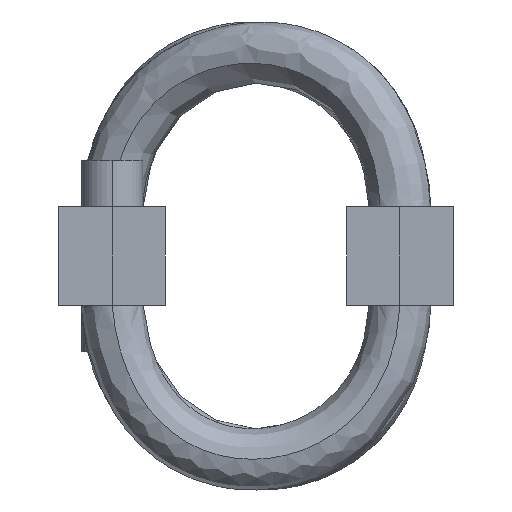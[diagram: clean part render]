
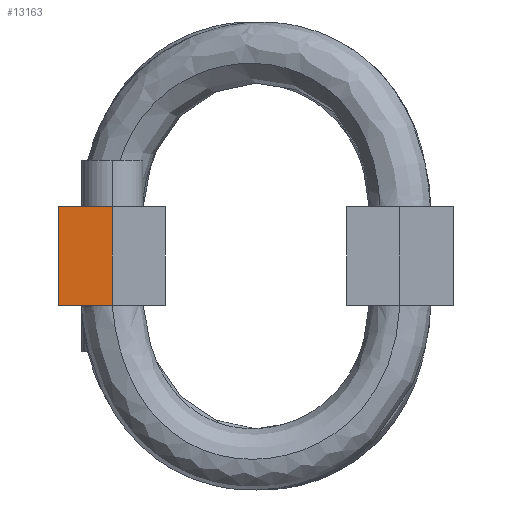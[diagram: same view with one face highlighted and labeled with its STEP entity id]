
A CAD part, left-side view. The second image highlights one B-rep face of the part: STEP entity #13163.
In plain terms, the highlighted planar face has unit normal (-1, 0, 0).
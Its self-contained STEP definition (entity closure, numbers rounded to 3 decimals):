
#1477 = LINE ( 'NONE', #32263, #30634 ) ;
#1619 = DIRECTION ( 'NONE',  ( 0., 0., 1. ) ) ;
#2585 = ORIENTED_EDGE ( 'NONE', *, *, #7484, .F. ) ;
#2605 = CARTESIAN_POINT ( 'NONE',  ( -133.35, 51., 12.7 ) ) ;
#3106 = CARTESIAN_POINT ( 'NONE',  ( -133.35, 51., -12.7 ) ) ;
#4693 = CARTESIAN_POINT ( 'NONE',  ( -133.35, 44.1, 0. ) ) ;
#6073 = AXIS2_PLACEMENT_3D ( 'NONE', #4693, #10390, #30084 ) ;
#7007 = DIRECTION ( 'NONE',  ( 0., -1., 0. ) ) ;
#7064 = DIRECTION ( 'NONE',  ( 0., 1., 0. ) ) ;
#7484 = EDGE_CURVE ( 'NONE', #16012, #17000, #10129, .T. ) ;
#8247 = VECTOR ( 'NONE', #1619, 1000. ) ;
#8587 = CARTESIAN_POINT ( 'NONE',  ( -133.35, 37.2, 12.7 ) ) ;
#9794 = EDGE_CURVE ( 'NONE', #34092, #32902, #22397, .T. ) ;
#10129 = LINE ( 'NONE', #30409, #31730 ) ;
#10390 = DIRECTION ( 'NONE',  ( -1., 0., 0. ) ) ;
#11462 = EDGE_CURVE ( 'NONE', #32902, #16012, #1477, .T. ) ;
#13163 = ADVANCED_FACE ( 'NONE', ( #27725 ), #35245, .T. ) ;
#13780 = ORIENTED_EDGE ( 'NONE', *, *, #9794, .F. ) ;
#15738 = CARTESIAN_POINT ( 'NONE',  ( -133.35, 51., -12.7 ) ) ;
#16012 = VERTEX_POINT ( 'NONE', #8587 ) ;
#16902 = ORIENTED_EDGE ( 'NONE', *, *, #11462, .F. ) ;
#17000 = VERTEX_POINT ( 'NONE', #34815 ) ;
#17522 = LINE ( 'NONE', #35148, #24119 ) ;
#20391 = EDGE_CURVE ( 'NONE', #17000, #34092, #17522, .T. ) ;
#21343 = EDGE_LOOP ( 'NONE', ( #16902, #13780, #28421, #2585 ) ) ;
#22397 = LINE ( 'NONE', #15738, #8247 ) ;
#24119 = VECTOR ( 'NONE', #7064, 1000. ) ;
#27725 = FACE_OUTER_BOUND ( 'NONE', #21343, .T. ) ;
#28421 = ORIENTED_EDGE ( 'NONE', *, *, #20391, .F. ) ;
#30084 = DIRECTION ( 'NONE',  ( 0., 0., 1. ) ) ;
#30409 = CARTESIAN_POINT ( 'NONE',  ( -133.35, 37.2, -12.7 ) ) ;
#30634 = VECTOR ( 'NONE', #7007, 1000. ) ;
#31730 = VECTOR ( 'NONE', #33350, 1000. ) ;
#32263 = CARTESIAN_POINT ( 'NONE',  ( -133.35, 51., 12.7 ) ) ;
#32902 = VERTEX_POINT ( 'NONE', #2605 ) ;
#33350 = DIRECTION ( 'NONE',  ( 0., 0., -1. ) ) ;
#34092 = VERTEX_POINT ( 'NONE', #3106 ) ;
#34815 = CARTESIAN_POINT ( 'NONE',  ( -133.35, 37.2, -12.7 ) ) ;
#35148 = CARTESIAN_POINT ( 'NONE',  ( -133.35, 51., -12.7 ) ) ;
#35245 = PLANE ( 'NONE',  #6073 ) ;
